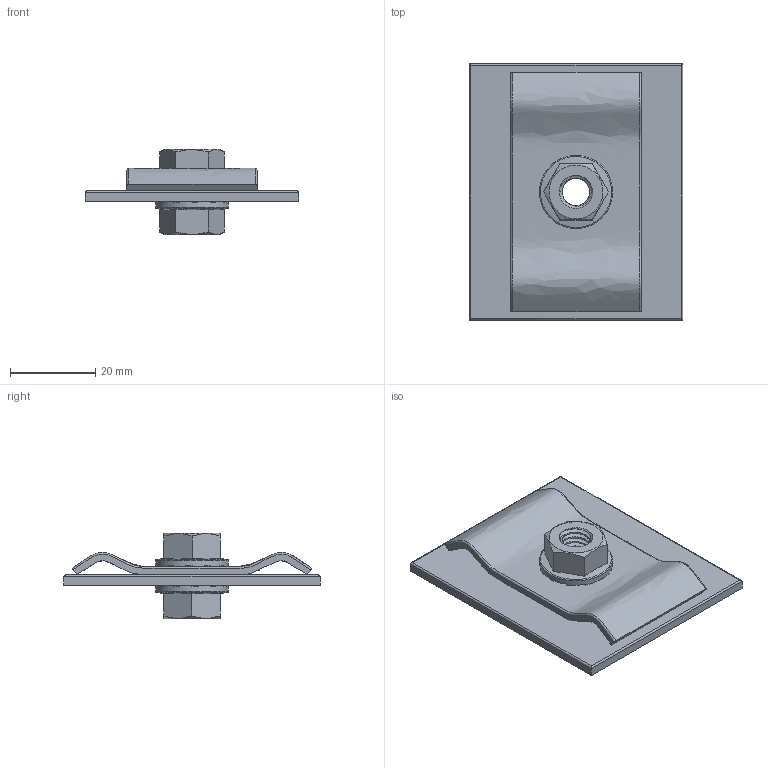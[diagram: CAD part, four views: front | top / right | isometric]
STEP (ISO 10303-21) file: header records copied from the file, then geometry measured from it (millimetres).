
FILE_DESCRIPTION(/* description */ (''),/* implementation_level */ '2;1');
FILE_NAME(/* name */ 'DZM16',/* time_stamp */ '2025-03-13T20:18:11+01:00',/* author */ (''),/* organization */ (''),/* preprocessor_version */ 'ST-DEVELOPER v16.5',/* originating_system */ '',/* authorisation */ '');
FILE_SCHEMA (('CONFIG_CONTROL_DESIGN'));
Length unit declared in the file: millimetre
Products named in the file (2): Document; nut_M8_collar.part
Assembly tree (2 placements, depth 2):
  Document
    nut_M8_collar.part  x2
Bounding box: 50 x 60 x 20.08 mm (x, y, z)
Volume: 10510.2 mm3; surface area: 12294.7 mm2
Topology: 2 solids, 4 shells, 148 faces, 374 edges, 234 vertices
Faces by surface type: bspline 66, plane 48, cylinder 34
Full cylindrical faces by diameter (mm): 8.4 x2, 17.095 x2
Entity records: 6860 total; most frequent: CARTESIAN_POINT 5378, ORIENTED_EDGE 409, EDGE_CURVE 211, VERTEX_POINT 132, B_SPLINE_CURVE_WITH_KNOTS 108, EDGE_LOOP 91, ADVANCED_FACE 85, FACE_OUTER_BOUND 85
